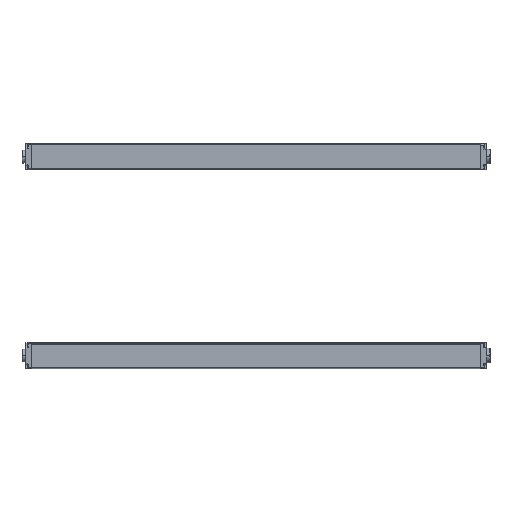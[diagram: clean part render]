
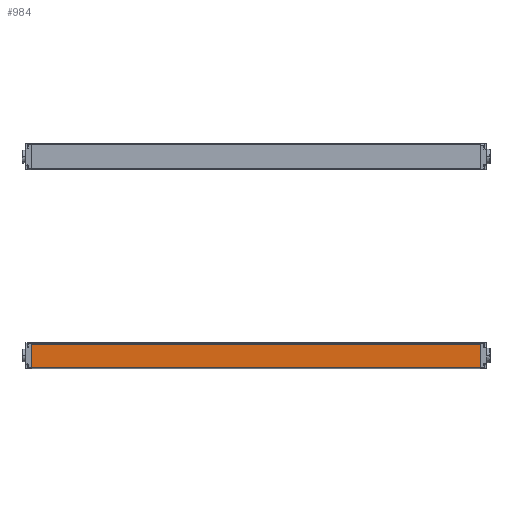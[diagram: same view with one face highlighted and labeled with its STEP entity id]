
A CAD part, left-side view. The second image highlights one B-rep face of the part: STEP entity #984.
In plain terms, the highlighted planar face has unit normal (-1, 0, -0.009) as drawn and (1, 0, 0) by its records, which use the part's own axes.
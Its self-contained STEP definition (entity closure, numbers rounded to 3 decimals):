
#890 = CARTESIAN_POINT ( 'NONE',  ( 15., 0., -16.9 ) ) ;
#984 = ADVANCED_FACE ( 'NONE', ( #8709 ), #14251, .F. ) ;
#1416 = VERTEX_POINT ( 'NONE', #4511 ) ;
#1787 = EDGE_CURVE ( 'NONE', #12877, #1416, #13348, .T. ) ;
#1790 = CARTESIAN_POINT ( 'NONE',  ( 15., 520., -16.9 ) ) ;
#2185 = CARTESIAN_POINT ( 'NONE',  ( 15., 520., -16.693 ) ) ;
#3732 = CARTESIAN_POINT ( 'NONE',  ( 15., 520., -16.9 ) ) ;
#4082 = CARTESIAN_POINT ( 'NONE',  ( 15., 520., -16.693 ) ) ;
#4511 = CARTESIAN_POINT ( 'NONE',  ( 15., 0., -16.693 ) ) ;
#4884 = EDGE_CURVE ( 'NONE', #9428, #14364, #16189, .T. ) ;
#5004 = EDGE_CURVE ( 'NONE', #1416, #14364, #16542, .T. ) ;
#5101 = VECTOR ( 'NONE', #6455, 1000. ) ;
#5298 = DIRECTION ( 'NONE',  ( 0., -1., 0. ) ) ;
#5895 = VECTOR ( 'NONE', #5298, 1000. ) ;
#6103 = ORIENTED_EDGE ( 'NONE', *, *, #5004, .T. ) ;
#6455 = DIRECTION ( 'NONE',  ( 0., 0., -1. ) ) ;
#7356 = DIRECTION ( 'NONE',  ( -1., 0., 0. ) ) ;
#8294 = ORIENTED_EDGE ( 'NONE', *, *, #1787, .T. ) ;
#8709 = FACE_OUTER_BOUND ( 'NONE', #13898, .T. ) ;
#9278 = DIRECTION ( 'NONE',  ( 0., 0., -1. ) ) ;
#9428 = VERTEX_POINT ( 'NONE', #10112 ) ;
#9627 = DIRECTION ( 'NONE',  ( 0., 1., 0. ) ) ;
#10112 = CARTESIAN_POINT ( 'NONE',  ( 15., 520., 10.9 ) ) ;
#11676 = VECTOR ( 'NONE', #9278, 1000. ) ;
#12190 = LINE ( 'NONE', #17751, #5895 ) ;
#12257 = VECTOR ( 'NONE', #9627, 1000. ) ;
#12877 = VERTEX_POINT ( 'NONE', #15524 ) ;
#12900 = DIRECTION ( 'NONE',  ( 0., 0., 1. ) ) ;
#13348 = LINE ( 'NONE', #890, #5101 ) ;
#13898 = EDGE_LOOP ( 'NONE', ( #8294, #6103, #14151, #14512 ) ) ;
#14046 = EDGE_CURVE ( 'NONE', #9428, #12877, #12190, .T. ) ;
#14151 = ORIENTED_EDGE ( 'NONE', *, *, #4884, .F. ) ;
#14251 = PLANE ( 'NONE',  #16916 ) ;
#14364 = VERTEX_POINT ( 'NONE', #2185 ) ;
#14512 = ORIENTED_EDGE ( 'NONE', *, *, #14046, .T. ) ;
#15524 = CARTESIAN_POINT ( 'NONE',  ( 15., 0., 10.9 ) ) ;
#16189 = LINE ( 'NONE', #3732, #11676 ) ;
#16542 = LINE ( 'NONE', #4082, #12257 ) ;
#16916 = AXIS2_PLACEMENT_3D ( 'NONE', #1790, #7356, #12900 ) ;
#17751 = CARTESIAN_POINT ( 'NONE',  ( 15., 520., 10.9 ) ) ;
